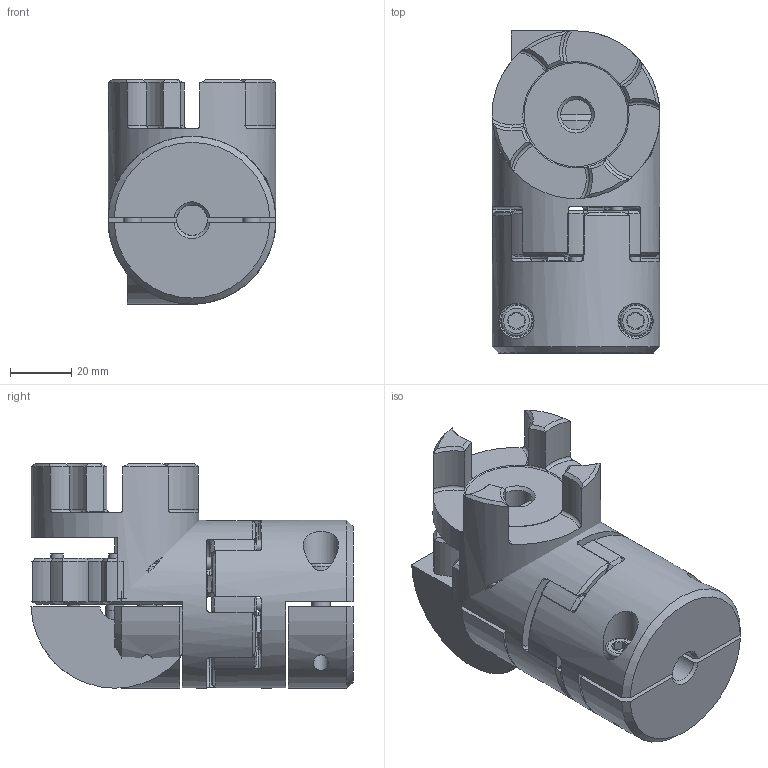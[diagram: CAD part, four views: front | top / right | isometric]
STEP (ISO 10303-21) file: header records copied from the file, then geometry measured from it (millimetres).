
FILE_DESCRIPTION( ( 'Unknown' ), '1' );
FILE_NAME( 'C:/Dokumente und Einstellungen/Sven/Desktop/homepage/cad - homepage/KBE2H/KBE 2H - 24.stp', 'Unknown', ( 'Unknown' ), ( 'Unknown' ), 'XStep 1.0', 'Unknown', ' ' );
FILE_SCHEMA( ( 'automotive_design' ) );
Length unit declared in the file: millimetre
Products named in the file (7): Assem1; KBE 2H - 24_Nabe; KBE 2H - 24_Nabe-oa0; Zahnkranz_24_Standard; ISO EN DIN 4762 M6x20; KBE 2H - 24_Klemme; KBE 2H - 24_Klemme-oa1
Bounding box: 54.98 x 105.49 x 73.5 mm (x, y, z)
Volume: 314055.4 mm3; surface area: 92875.4 mm2
Topology: 15 solids, 15 shells, 671 faces, 1535 edges, 936 vertices
Faces by surface type: cone 251, cylinder 192, plane 174, torus 54
Full cylindrical faces by diameter (mm): 4 x16, 4.917 x8, 5 x5, 6 x10, 6.5 x8, 10 x9, 11.5 x8, 27 x4, 55 x4
Entity records: 9514 total; most frequent: CARTESIAN_POINT 2686, DIRECTION 1412, ORIENTED_EDGE 1284, AXIS2_PLACEMENT_3D 652, EDGE_CURVE 642, VERTEX_POINT 414, EDGE_LOOP 376, CIRCLE 344
